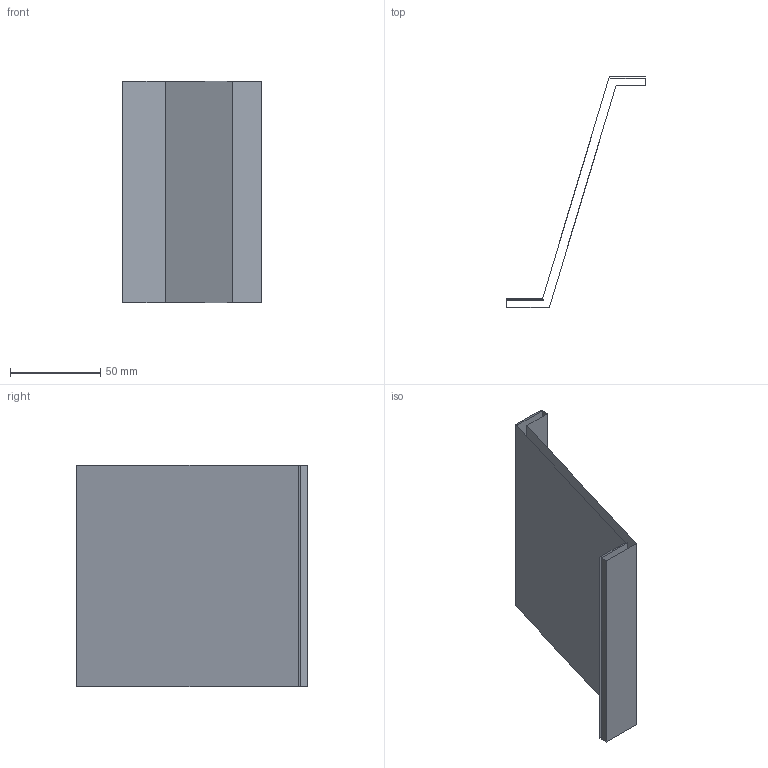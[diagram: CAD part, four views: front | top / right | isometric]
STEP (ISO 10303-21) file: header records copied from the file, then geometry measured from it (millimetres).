
FILE_DESCRIPTION(('CATIA V5 STEP Exchange'),'2;1');
FILE_NAME('C:\_Andres\UNIVERSIDAD\IQS\ASIGNATURAS\DAO\EXF\EXF-16172c\2inicio\Perez_Pellicer_Ej06_v23.stp','2017-03-05T21:01:26+00:00',('none'),('none'),'CATIA Version 5-6 Release 2014 SP1 HF18','CATIA V5 STEP AP203','none');
FILE_SCHEMA(('CONFIG_CONTROL_DESIGN'));
Length unit declared in the file: millimetre
Products named in the file (1): Perez_Pellicer_Ej06_v23
Bounding box: 77 x 128 x 123 mm (x, y, z)
Surface area: 47341.4 mm2 (no closed solid volume)
Topology: 0 solids, 2 shells, 10 faces, 42 edges, 36 vertices
Faces by surface type: plane 10
Entity records: 461 total; most frequent: CARTESIAN_POINT 100, DIRECTION 59, ORIENTED_EDGE 40, VECTOR 39, LINE 39, EDGE_CURVE 32, VERTEX_POINT 24, AXIS2_PLACEMENT_3D 11
